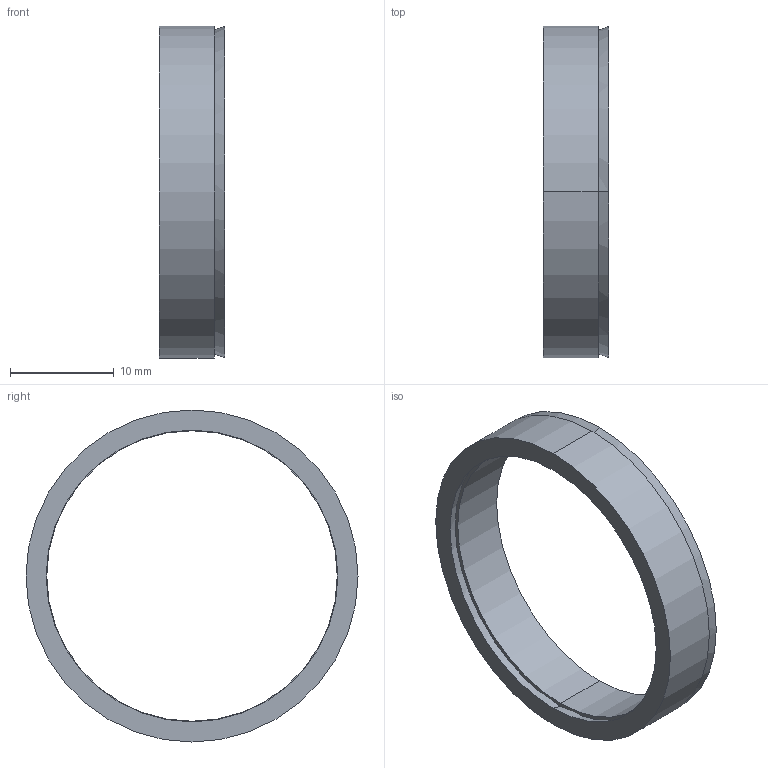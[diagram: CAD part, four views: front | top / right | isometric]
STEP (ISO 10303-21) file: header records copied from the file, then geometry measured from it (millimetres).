
FILE_DESCRIPTION (( 'STEP AP203' ), '1' );
FILE_NAME ('R-28-32.STEP', '2017-11-06T02:15:57', ( 'MYCOM' ), ( '' ), 'SwSTEP 2.0', 'SolidWorks 2015', '' );
FILE_SCHEMA (( 'CONFIG_CONTROL_DESIGN' ));
Length unit declared in the file: millimetre
Products named in the file (1): R-28-32
Bounding box: 6.3 x 32 x 32 mm (x, y, z)
Surface area: 2475.6 mm2 (no closed solid volume)
Topology: 0 solids, 2 shells, 12 faces, 24 edges, 16 vertices
Faces by surface type: cylinder 4, cone 4, plane 4
Entity records: 406 total; most frequent: DIRECTION 66, CARTESIAN_POINT 53, ORIENTED_EDGE 48, AXIS2_PLACEMENT_3D 29, EDGE_CURVE 24, EDGE_LOOP 16, VERTEX_POINT 16, CIRCLE 16
